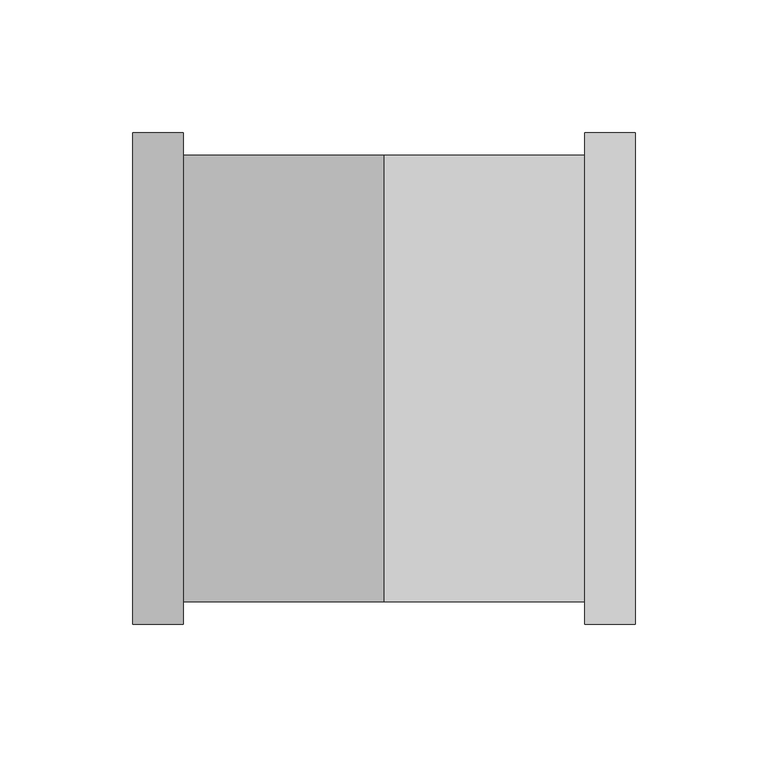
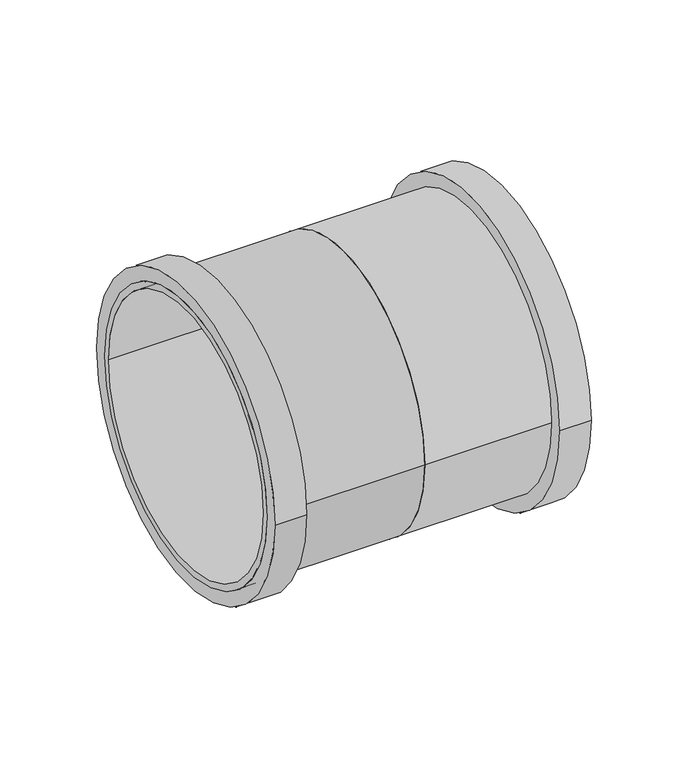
"""IFC4 building model written with IfcOpenShell, lengths in millimetres: pipe fitting geometry, Superdrain SKU-coupler : Superdrain SKU-coupler."""

from ifc_helpers import new_model, si_unit, point, frame, origin, origin_2d, place, context, project, spatial, circle_curve, trimmed, segment, composite_curve, outline, extrude, source, transform, mapped, element, save


def pipe_fitting_1f33a7f4(model_context):
    return source(origin(), model_context, "Body", "SweptSolid", [
        extrude(outline(composite_curve([segment(trimmed(circle_curve(origin_2d(), 84.0), [point((84.0, 0.0))], [point((-84.0, 0.0))], False, "CARTESIAN"), True, "CONTINUOUS"), segment(trimmed(circle_curve(origin_2d(), 84.0), [point((-84.0, 0.0))], [point((84.0, 0.0))], False, "CARTESIAN"), True, "CONTINUOUS")], self_intersect=False), holes=[composite_curve([segment(trimmed(circle_curve(origin_2d(), 80.0), [point((80.0, 0.0))], [point((-80.0, 0.0))], True, "CARTESIAN"), True, "CONTINUOUS"), segment(trimmed(circle_curve(origin_2d(), 80.0), [point((-80.0, 0.0))], [point((80.0, 0.0))], True, "CARTESIAN"), True, "CONTINUOUS")], self_intersect=False)]), frame((0.0, 0.0, 0.0), z_axis=(1.0, 0.0, 0.0), x_axis=(0.0, 1.0, 0.0)), (0.0, 0.0, 1.0), 94.5),
        extrude(outline(composite_curve([segment(trimmed(circle_curve(origin_2d(), 92.4), [point((92.4, 0.0))], [point((-92.4, 0.0))], False, "CARTESIAN"), True, "CONTINUOUS"), segment(trimmed(circle_curve(origin_2d(), 92.4), [point((-92.4, 0.0))], [point((92.4, 0.0))], False, "CARTESIAN"), True, "CONTINUOUS")], self_intersect=False), holes=[composite_curve([segment(trimmed(circle_curve(origin_2d(), 80.0), [point((80.0, 0.0))], [point((-80.0, 0.0))], True, "CARTESIAN"), True, "CONTINUOUS"), segment(trimmed(circle_curve(origin_2d(), 80.0), [point((-80.0, 0.0))], [point((80.0, 0.0))], True, "CARTESIAN"), True, "CONTINUOUS")], self_intersect=False)]), frame((75.6, 0.0, 0.0), z_axis=(1.0, 0.0, 0.0), x_axis=(0.0, 1.0, 0.0)), (0.0, 0.0, 1.0), 18.9),
        extrude(outline(composite_curve([segment(trimmed(circle_curve(origin_2d(), 84.0), [point((-84.0, 0.0))], [point((84.0, 0.0))], False, "CARTESIAN"), True, "CONTINUOUS"), segment(trimmed(circle_curve(origin_2d(), 84.0), [point((84.0, 0.0))], [point((-84.0, 0.0))], False, "CARTESIAN"), True, "CONTINUOUS")], self_intersect=False), holes=[composite_curve([segment(trimmed(circle_curve(origin_2d(), 80.0), [point((-80.0, 0.0))], [point((80.0, 0.0))], True, "CARTESIAN"), True, "CONTINUOUS"), segment(trimmed(circle_curve(origin_2d(), 80.0), [point((80.0, 0.0))], [point((-80.0, 0.0))], True, "CARTESIAN"), True, "CONTINUOUS")], self_intersect=False)]), frame((-94.5, 0.0, 0.0), z_axis=(1.0, 0.0, 0.0), x_axis=(0.0, 1.0, 0.0)), (0.0, 0.0, 1.0), 94.5),
        extrude(outline(composite_curve([segment(trimmed(circle_curve(origin_2d(), 92.4), [point((-92.4, 0.0))], [point((92.4, 0.0))], False, "CARTESIAN"), True, "CONTINUOUS"), segment(trimmed(circle_curve(origin_2d(), 92.4), [point((92.4, 0.0))], [point((-92.4, 0.0))], False, "CARTESIAN"), True, "CONTINUOUS")], self_intersect=False), holes=[composite_curve([segment(trimmed(circle_curve(origin_2d(), 80.0), [point((-80.0, 0.0))], [point((80.0, 0.0))], True, "CARTESIAN"), True, "CONTINUOUS"), segment(trimmed(circle_curve(origin_2d(), 80.0), [point((80.0, 0.0))], [point((-80.0, 0.0))], True, "CARTESIAN"), True, "CONTINUOUS")], self_intersect=False)]), frame((-94.5, 0.0, 0.0), z_axis=(1.0, 0.0, 0.0), x_axis=(0.0, 1.0, 0.0)), (0.0, 0.0, 1.0), 18.9),
    ])


if __name__ == "__main__":
    model = new_model("IFC4")
    model_context = context("Model", 3, world=origin())
    ifc_project = project(units=[si_unit("LENGTHUNIT", "METRE", prefix="MILLI")], contexts=[model_context])
    site = spatial("IfcSite", under=ifc_project)
    building = spatial("IfcBuilding", under=site)
    placement = place(None, origin())
    pipe_fitting_shape = pipe_fitting_1f33a7f4(model_context)
    element("IfcPipeFitting", 1, ObjectType="Superdrain SKU-coupler : Superdrain SKU-coupler", at=placement, inside=building, context=model_context, shape_type="MappedRepresentation", body=[
        mapped(pipe_fitting_shape, transform((0.0, 0.0, 0.0), x_axis=(1.0, 0.0, 0.0), y_axis=(0.0, 1.0, 0.0), z_axis=(0.0, 0.0, 1.0))),
    ])
    save(model, "model.ifc")
